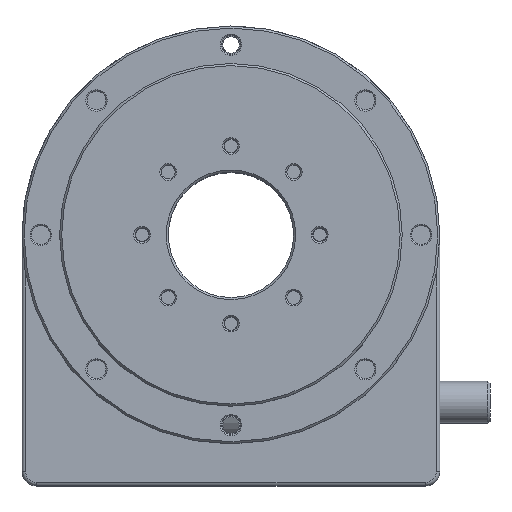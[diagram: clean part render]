
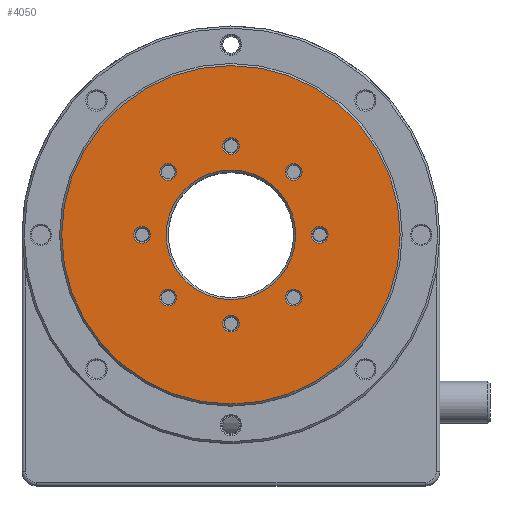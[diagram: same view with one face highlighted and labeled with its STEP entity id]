
A CAD part, top view. The second image highlights one B-rep face of the part: STEP entity #4050.
In plain terms, the highlighted planar face has unit normal (0, 0, 1) as drawn and (0, 0, -1) by its records, which use the part's own axes.
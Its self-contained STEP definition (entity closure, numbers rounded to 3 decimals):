
#3928=CARTESIAN_POINT('',(40.5,0.0,-14.5));
#3929=VERTEX_POINT('',#3928);
#3930=CARTESIAN_POINT('',(0.0,0.0,-14.5));
#3931=DIRECTION('',(0.0,0.0,-1.0));
#3932=DIRECTION('',(1.0,0.0,0.0));
#3933=AXIS2_PLACEMENT_3D('',#3930,#3931,#3932);
#3934=CIRCLE('',#3933,40.5);
#3935=EDGE_CURVE('',#3929,#3929,#3934,.T.);
#3943=CARTESIAN_POINT('',(28.,0.0,-14.5));
#3944=DIRECTION('',(0.0,0.0,-1.0));
#3945=DIRECTION('',(1.0,0.0,0.0));
#3946=AXIS2_PLACEMENT_3D('',#3943,#3944,#3945);
#3947=PLANE('',#3946);
#3948=ORIENTED_EDGE('',*,*,#3935,.T.);
#3949=EDGE_LOOP('',(#3948));
#3950=FACE_OUTER_BOUND('',#3949,.T.);
#3951=CARTESIAN_POINT('',(13.612,16.44,-14.5));
#3952=VERTEX_POINT('',#3951);
#3953=CARTESIAN_POINT('',(15.026,15.026,-14.5));
#3954=DIRECTION('',(0.0,0.0,-1.0));
#3955=DIRECTION('',(-0.707,0.707,0.0));
#3956=AXIS2_PLACEMENT_3D('',#3953,#3954,#3955);
#3957=CIRCLE('',#3956,2.0);
#3958=EDGE_CURVE('',#3952,#3952,#3957,.T.);
#3959=ORIENTED_EDGE('',*,*,#3958,.F.);
#3960=EDGE_LOOP('',(#3959));
#3961=FACE_BOUND('',#3960,.T.);
#3962=CARTESIAN_POINT('',(16.44,-13.612,-14.5));
#3963=VERTEX_POINT('',#3962);
#3964=CARTESIAN_POINT('',(15.026,-15.026,-14.5));
#3965=DIRECTION('',(0.0,0.0,-1.0));
#3966=DIRECTION('',(0.707,0.707,0.0));
#3967=AXIS2_PLACEMENT_3D('',#3964,#3965,#3966);
#3968=CIRCLE('',#3967,2.);
#3969=EDGE_CURVE('',#3963,#3963,#3968,.T.);
#3970=ORIENTED_EDGE('',*,*,#3969,.F.);
#3971=EDGE_LOOP('',(#3970));
#3972=FACE_BOUND('',#3971,.T.);
#3973=CARTESIAN_POINT('',(-13.612,-16.44,-14.5));
#3974=VERTEX_POINT('',#3973);
#3975=CARTESIAN_POINT('',(-15.026,-15.026,-14.5));
#3976=DIRECTION('',(0.0,0.0,-1.0));
#3977=DIRECTION('',(0.707,-0.707,0.0));
#3978=AXIS2_PLACEMENT_3D('',#3975,#3976,#3977);
#3979=CIRCLE('',#3978,2.);
#3980=EDGE_CURVE('',#3974,#3974,#3979,.T.);
#3981=ORIENTED_EDGE('',*,*,#3980,.F.);
#3982=EDGE_LOOP('',(#3981));
#3983=FACE_BOUND('',#3982,.T.);
#3984=CARTESIAN_POINT('',(-16.44,13.612,-14.5));
#3985=VERTEX_POINT('',#3984);
#3986=CARTESIAN_POINT('',(-15.026,15.026,-14.5));
#3987=DIRECTION('',(0.0,0.0,-1.0));
#3988=DIRECTION('',(-0.707,-0.707,0.0));
#3989=AXIS2_PLACEMENT_3D('',#3986,#3987,#3988);
#3990=CIRCLE('',#3989,2.);
#3991=EDGE_CURVE('',#3985,#3985,#3990,.T.);
#3992=ORIENTED_EDGE('',*,*,#3991,.F.);
#3993=EDGE_LOOP('',(#3992));
#3994=FACE_BOUND('',#3993,.T.);
#3995=CARTESIAN_POINT('',(21.25,2.0,-14.5));
#3996=VERTEX_POINT('',#3995);
#3997=CARTESIAN_POINT('',(21.25,0.0,-14.5));
#3998=DIRECTION('',(0.0,0.0,-1.0));
#3999=DIRECTION('',(0.0,1.0,0.0));
#4000=AXIS2_PLACEMENT_3D('',#3997,#3998,#3999);
#4001=CIRCLE('',#4000,2.0);
#4002=EDGE_CURVE('',#3996,#3996,#4001,.T.);
#4003=ORIENTED_EDGE('',*,*,#4002,.F.);
#4004=EDGE_LOOP('',(#4003));
#4005=FACE_BOUND('',#4004,.T.);
#4006=CARTESIAN_POINT('',(2.0,-21.25,-14.5));
#4007=VERTEX_POINT('',#4006);
#4008=CARTESIAN_POINT('',(0.0,-21.25,-14.5));
#4009=DIRECTION('',(0.0,0.0,-1.0));
#4010=DIRECTION('',(1.0,0.0,0.0));
#4011=AXIS2_PLACEMENT_3D('',#4008,#4009,#4010);
#4012=CIRCLE('',#4011,2.0);
#4013=EDGE_CURVE('',#4007,#4007,#4012,.T.);
#4014=ORIENTED_EDGE('',*,*,#4013,.F.);
#4015=EDGE_LOOP('',(#4014));
#4016=FACE_BOUND('',#4015,.T.);
#4017=CARTESIAN_POINT('',(-21.25,-2.0,-14.5));
#4018=VERTEX_POINT('',#4017);
#4019=CARTESIAN_POINT('',(-21.25,0.0,-14.5));
#4020=DIRECTION('',(0.0,0.0,-1.0));
#4021=DIRECTION('',(0.0,-1.0,0.0));
#4022=AXIS2_PLACEMENT_3D('',#4019,#4020,#4021);
#4023=CIRCLE('',#4022,2.0);
#4024=EDGE_CURVE('',#4018,#4018,#4023,.T.);
#4025=ORIENTED_EDGE('',*,*,#4024,.F.);
#4026=EDGE_LOOP('',(#4025));
#4027=FACE_BOUND('',#4026,.T.);
#4028=CARTESIAN_POINT('',(-2.0,21.25,-14.5));
#4029=VERTEX_POINT('',#4028);
#4030=CARTESIAN_POINT('',(0.0,21.25,-14.5));
#4031=DIRECTION('',(0.0,0.0,-1.0));
#4032=DIRECTION('',(-1.0,0.0,0.0));
#4033=AXIS2_PLACEMENT_3D('',#4030,#4031,#4032);
#4034=CIRCLE('',#4033,2.0);
#4035=EDGE_CURVE('',#4029,#4029,#4034,.T.);
#4036=ORIENTED_EDGE('',*,*,#4035,.F.);
#4037=EDGE_LOOP('',(#4036));
#4038=FACE_BOUND('',#4037,.T.);
#4039=CARTESIAN_POINT('',(15.5,0.0,-14.5));
#4040=VERTEX_POINT('',#4039);
#4041=CARTESIAN_POINT('',(0.0,0.0,-14.5));
#4042=DIRECTION('',(0.0,0.0,-1.0));
#4043=DIRECTION('',(1.0,0.0,0.0));
#4044=AXIS2_PLACEMENT_3D('',#4041,#4042,#4043);
#4045=CIRCLE('',#4044,15.5);
#4046=EDGE_CURVE('',#4040,#4040,#4045,.T.);
#4047=ORIENTED_EDGE('',*,*,#4046,.F.);
#4048=EDGE_LOOP('',(#4047));
#4049=FACE_BOUND('',#4048,.T.);
#4050=ADVANCED_FACE('',(#3950,#3961,#3972,#3983,#3994,#4005,#4016,#4027,#4038,#4049),#3947,.T.);
